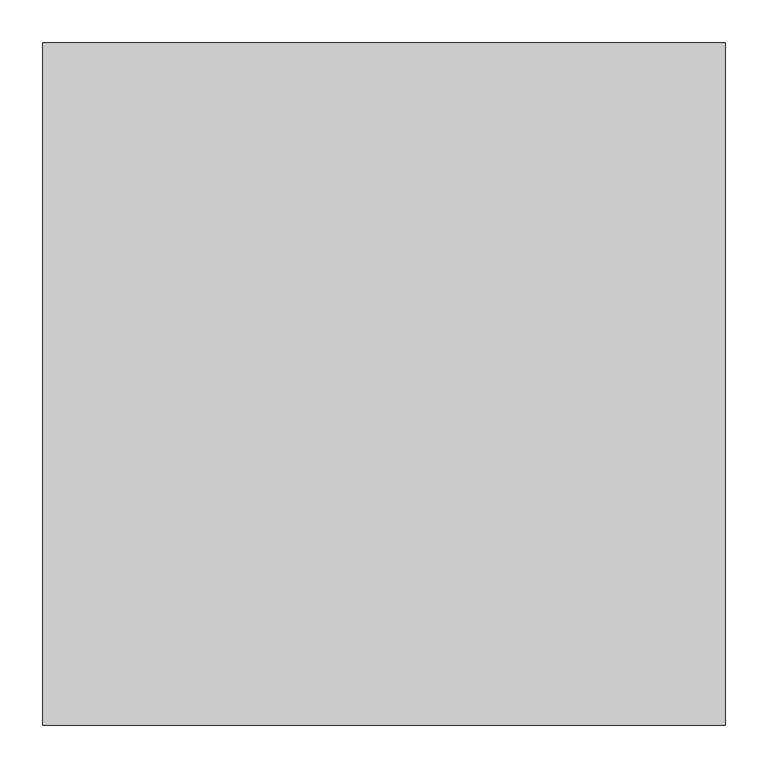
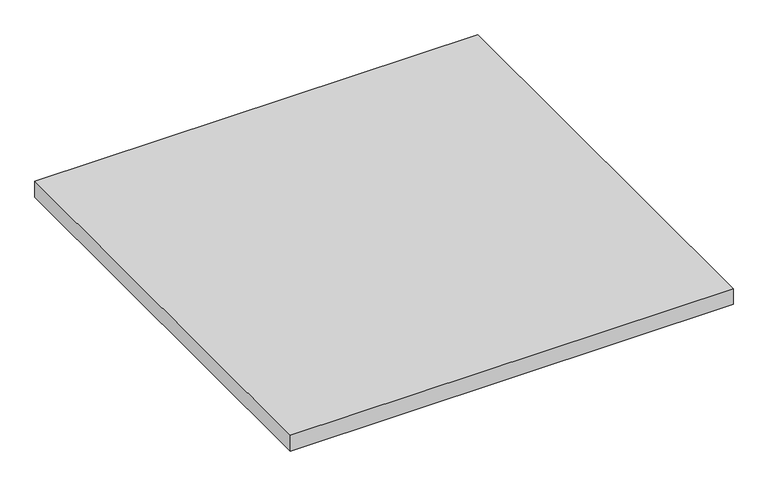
"""IFC4 building model written with IfcOpenShell, lengths in millimetres: proxy geometry, RSK LT BaseElement : RSK LT Element."""

from ifc_helpers import new_model, si_unit, origin, origin_with_axes, place, context, project, spatial, polyline, outline, extrude, source, transform, mapped, element, save


def generic_models_dbaa58b3(model_context):
    return source(origin(), model_context, "Body", "SweptSolid", [
        extrude(outline(polyline([(0.0, 0.0), (800.0, 0.0), (800.0, -800.0), (0.0, -800.0), (0.0, 0.0)])), origin_with_axes(), (0.0, 0.0, 1.0), 30.0),
    ])


if __name__ == "__main__":
    model = new_model("IFC4")
    model_context = context("Model", 3, world=origin())
    ifc_project = project(units=[si_unit("LENGTHUNIT", "METRE", prefix="MILLI")], contexts=[model_context])
    site = spatial("IfcSite", under=ifc_project)
    building = spatial("IfcBuilding", under=site)
    placement = place(None, origin())
    generic_models_shape = generic_models_dbaa58b3(model_context)
    element("IfcBuildingElementProxy", 1, Name="RSK LT BaseElement : RSK LT Element", ObjectType="RSK LT BaseElement : RSK LT Element", at=placement, inside=building, context=model_context, shape_type="MappedRepresentation", body=[
        mapped(generic_models_shape, transform((0.0, 0.0, 0.0), x_axis=(1.0, 0.0, 0.0), y_axis=(0.0, 1.0, 0.0), z_axis=(0.0, 0.0, 1.0))),
    ])
    save(model, "model.ifc")
